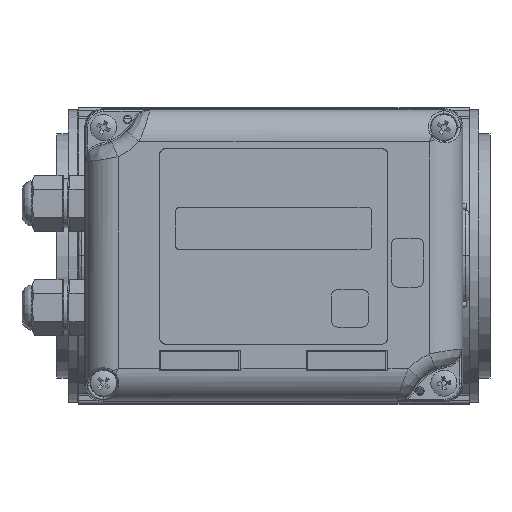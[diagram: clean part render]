
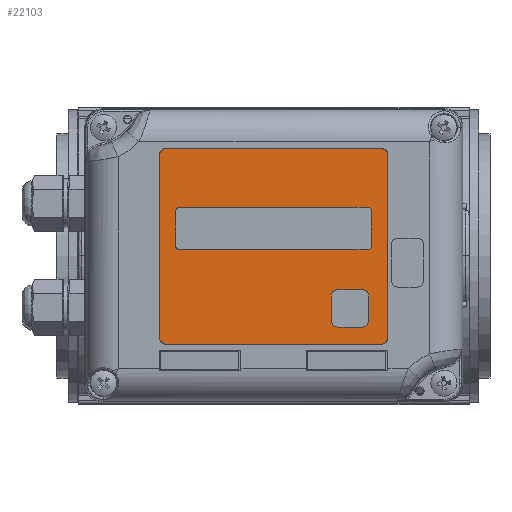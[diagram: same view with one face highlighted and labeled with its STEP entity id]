
A CAD part, top view. The second image highlights one B-rep face of the part: STEP entity #22103.
In plain terms, the highlighted planar face has unit normal (0, 0, 1).
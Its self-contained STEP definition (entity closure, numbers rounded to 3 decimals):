
#22103=ADVANCED_FACE('',(#83477,#83479,#83481),#83483,.T.);
#83477=FACE_BOUND('',#83478,.T.);
#83478=EDGE_LOOP('',(#96809,#96810,#96811,#96812,#96813,#96814,#96815,#96816));
#83479=FACE_BOUND('',#83480,.T.);
#83480=EDGE_LOOP('',(#96817,#96818,#96819,#96820,#96821,#96822,#96823,#96824));
#83481=FACE_BOUND('',#83482,.T.);
#83482=EDGE_LOOP('',(#96825,#96826,#96827,#96828,#96829,#96830,#96831,#96832));
#83483=PLANE('',#83484);
#83484=AXIS2_PLACEMENT_3D('',#83485,#83486,#83487);
#83485=CARTESIAN_POINT('',(0.059,2.709,127.3));
#83486=DIRECTION('',(0.,0.,1.));
#83487=DIRECTION('',(-1.,0.,0.));
#96809=ORIENTED_EDGE('',*,*,#103524,.F.);
#96810=ORIENTED_EDGE('',*,*,#103525,.T.);
#96811=ORIENTED_EDGE('',*,*,#103526,.F.);
#96812=ORIENTED_EDGE('',*,*,#103527,.T.);
#96813=ORIENTED_EDGE('',*,*,#103528,.F.);
#96814=ORIENTED_EDGE('',*,*,#103529,.T.);
#96815=ORIENTED_EDGE('',*,*,#103530,.F.);
#96816=ORIENTED_EDGE('',*,*,#103531,.T.);
#96817=ORIENTED_EDGE('',*,*,#103532,.F.);
#96818=ORIENTED_EDGE('',*,*,#103533,.T.);
#96819=ORIENTED_EDGE('',*,*,#103534,.F.);
#96820=ORIENTED_EDGE('',*,*,#103535,.T.);
#96821=ORIENTED_EDGE('',*,*,#103536,.F.);
#96822=ORIENTED_EDGE('',*,*,#103537,.T.);
#96823=ORIENTED_EDGE('',*,*,#103538,.F.);
#96824=ORIENTED_EDGE('',*,*,#103539,.T.);
#96825=ORIENTED_EDGE('',*,*,#103540,.F.);
#96826=ORIENTED_EDGE('',*,*,#103541,.T.);
#96827=ORIENTED_EDGE('',*,*,#103542,.F.);
#96828=ORIENTED_EDGE('',*,*,#103543,.T.);
#96829=ORIENTED_EDGE('',*,*,#103544,.F.);
#96830=ORIENTED_EDGE('',*,*,#103545,.T.);
#96831=ORIENTED_EDGE('',*,*,#103546,.F.);
#96832=ORIENTED_EDGE('',*,*,#103547,.T.);
#103524=EDGE_CURVE('',#113002,#113003,#113004,.F.);
#103525=EDGE_CURVE('',#113002,#113005,#113006,.T.);
#103526=EDGE_CURVE('',#113007,#113005,#113008,.F.);
#103527=EDGE_CURVE('',#113007,#113009,#113010,.T.);
#103528=EDGE_CURVE('',#113011,#113009,#113012,.F.);
#103529=EDGE_CURVE('',#113011,#113013,#113014,.T.);
#103530=EDGE_CURVE('',#113015,#113013,#113016,.F.);
#103531=EDGE_CURVE('',#113015,#113003,#113017,.T.);
#103532=EDGE_CURVE('',#113018,#113019,#113020,.F.);
#103533=EDGE_CURVE('',#113018,#113021,#113022,.F.);
#103534=EDGE_CURVE('',#113023,#113021,#113024,.F.);
#103535=EDGE_CURVE('',#113023,#113025,#113026,.F.);
#103536=EDGE_CURVE('',#113027,#113025,#113028,.F.);
#103537=EDGE_CURVE('',#113027,#113029,#113030,.F.);
#103538=EDGE_CURVE('',#113031,#113029,#113032,.F.);
#103539=EDGE_CURVE('',#113031,#113019,#113033,.F.);
#103540=EDGE_CURVE('',#113034,#113035,#113036,.F.);
#103541=EDGE_CURVE('',#113034,#113037,#113038,.F.);
#103542=EDGE_CURVE('',#113039,#113037,#113040,.F.);
#103543=EDGE_CURVE('',#113039,#113041,#113042,.F.);
#103544=EDGE_CURVE('',#113043,#113041,#113044,.F.);
#103545=EDGE_CURVE('',#113043,#113045,#113046,.F.);
#103546=EDGE_CURVE('',#113047,#113045,#113048,.F.);
#103547=EDGE_CURVE('',#113047,#113035,#113049,.F.);
#113002=VERTEX_POINT('',#197263);
#113003=VERTEX_POINT('',#197264);
#113004=CIRCLE('',#197265,2.);
#113005=VERTEX_POINT('',#197269);
#113006=LINE('',#197270,#197271);
#113007=VERTEX_POINT('',#197273);
#113008=CIRCLE('',#197274,2.);
#113009=VERTEX_POINT('',#197278);
#113010=LINE('',#197279,#197280);
#113011=VERTEX_POINT('',#197282);
#113012=CIRCLE('',#197283,2.);
#113013=VERTEX_POINT('',#197287);
#113014=LINE('',#197288,#197289);
#113015=VERTEX_POINT('',#197291);
#113016=CIRCLE('',#197292,2.);
#113017=LINE('',#197296,#197297);
#113018=VERTEX_POINT('',#197299);
#113019=VERTEX_POINT('',#197300);
#113020=CIRCLE('',#197301,2.);
#113021=VERTEX_POINT('',#197305);
#113022=LINE('',#197306,#197307);
#113023=VERTEX_POINT('',#197309);
#113024=CIRCLE('',#197310,2.);
#113025=VERTEX_POINT('',#197314);
#113026=LINE('',#197315,#197316);
#113027=VERTEX_POINT('',#197318);
#113028=CIRCLE('',#197319,2.);
#113029=VERTEX_POINT('',#197323);
#113030=LINE('',#197324,#197325);
#113031=VERTEX_POINT('',#197327);
#113032=CIRCLE('',#197328,2.);
#113033=LINE('',#197332,#197333);
#113034=VERTEX_POINT('',#197335);
#113035=VERTEX_POINT('',#197336);
#113036=CIRCLE('',#197337,1.);
#113037=VERTEX_POINT('',#197341);
#113038=LINE('',#197342,#197343);
#113039=VERTEX_POINT('',#197345);
#113040=CIRCLE('',#197346,1.);
#113041=VERTEX_POINT('',#197350);
#113042=LINE('',#197351,#197352);
#113043=VERTEX_POINT('',#197354);
#113044=CIRCLE('',#197355,1.);
#113045=VERTEX_POINT('',#197359);
#113046=LINE('',#197360,#197361);
#113047=VERTEX_POINT('',#197363);
#113048=CIRCLE('',#197364,1.);
#113049=LINE('',#197368,#197369);
#197263=CARTESIAN_POINT('',(-32.941,-27.291,127.3));
#197264=CARTESIAN_POINT('',(-34.941,-25.291,127.3));
#197265=AXIS2_PLACEMENT_3D('',#197266,#197267,#197268);
#197266=CARTESIAN_POINT('',(-32.941,-25.291,127.3));
#197267=DIRECTION('',(0.,0.,1.));
#197268=DIRECTION('',(-1.,0.,0.));
#197269=CARTESIAN_POINT('',(33.059,-27.291,127.3));
#197270=CARTESIAN_POINT('',(-32.941,-27.291,127.3));
#197271=VECTOR('',#197272,1.);
#197272=DIRECTION('',(1.,0.,0.));
#197273=CARTESIAN_POINT('',(35.059,-25.291,127.3));
#197274=AXIS2_PLACEMENT_3D('',#197275,#197276,#197277);
#197275=CARTESIAN_POINT('',(33.059,-25.291,127.3));
#197276=DIRECTION('',(0.,0.,1.));
#197277=DIRECTION('',(0.,-1.,0.));
#197278=CARTESIAN_POINT('',(35.059,30.709,127.3));
#197279=CARTESIAN_POINT('',(35.059,-25.291,127.3));
#197280=VECTOR('',#197281,1.);
#197281=DIRECTION('',(0.,1.,0.));
#197282=CARTESIAN_POINT('',(33.059,32.709,127.3));
#197283=AXIS2_PLACEMENT_3D('',#197284,#197285,#197286);
#197284=CARTESIAN_POINT('',(33.059,30.709,127.3));
#197285=DIRECTION('',(0.,0.,1.));
#197286=DIRECTION('',(1.,0.,0.));
#197287=CARTESIAN_POINT('',(-32.941,32.709,127.3));
#197288=CARTESIAN_POINT('',(33.059,32.709,127.3));
#197289=VECTOR('',#197290,1.);
#197290=DIRECTION('',(-1.,0.,0.));
#197291=CARTESIAN_POINT('',(-34.941,30.709,127.3));
#197292=AXIS2_PLACEMENT_3D('',#197293,#197294,#197295);
#197293=CARTESIAN_POINT('',(-32.941,30.709,127.3));
#197294=DIRECTION('',(0.,0.,1.));
#197295=DIRECTION('',(0.,1.,0.));
#197296=CARTESIAN_POINT('',(-34.941,30.709,127.3));
#197297=VECTOR('',#197298,1.);
#197298=DIRECTION('',(0.,-1.,0.));
#197299=CARTESIAN_POINT('',(19.809,-10.541,127.3));
#197300=CARTESIAN_POINT('',(17.809,-12.541,127.3));
#197301=AXIS2_PLACEMENT_3D('',#197302,#197303,#197304);
#197302=CARTESIAN_POINT('',(19.809,-12.541,127.3));
#197303=DIRECTION('',(-0.,0.,-1.));
#197304=DIRECTION('',(-1.,0.,0.));
#197305=CARTESIAN_POINT('',(27.309,-10.541,127.3));
#197306=CARTESIAN_POINT('',(27.309,-10.541,127.3));
#197307=VECTOR('',#197308,1.);
#197308=DIRECTION('',(-1.,0.,0.));
#197309=CARTESIAN_POINT('',(29.309,-12.541,127.3));
#197310=AXIS2_PLACEMENT_3D('',#197311,#197312,#197313);
#197311=CARTESIAN_POINT('',(27.309,-12.541,127.3));
#197312=DIRECTION('',(0.,-0.,-1.));
#197313=DIRECTION('',(0.,1.,0.));
#197314=CARTESIAN_POINT('',(29.309,-20.041,127.3));
#197315=CARTESIAN_POINT('',(29.309,-20.041,127.3));
#197316=VECTOR('',#197317,1.);
#197317=DIRECTION('',(0.,1.,0.));
#197318=CARTESIAN_POINT('',(27.309,-22.041,127.3));
#197319=AXIS2_PLACEMENT_3D('',#197320,#197321,#197322);
#197320=CARTESIAN_POINT('',(27.309,-20.041,127.3));
#197321=DIRECTION('',(0.,-0.,-1.));
#197322=DIRECTION('',(1.,0.,0.));
#197323=CARTESIAN_POINT('',(19.809,-22.041,127.3));
#197324=CARTESIAN_POINT('',(19.809,-22.041,127.3));
#197325=VECTOR('',#197326,1.);
#197326=DIRECTION('',(1.,0.,0.));
#197327=CARTESIAN_POINT('',(17.809,-20.041,127.3));
#197328=AXIS2_PLACEMENT_3D('',#197329,#197330,#197331);
#197329=CARTESIAN_POINT('',(19.809,-20.041,127.3));
#197330=DIRECTION('',(-0.,0.,-1.));
#197331=DIRECTION('',(0.,-1.,0.));
#197332=CARTESIAN_POINT('',(17.809,-12.541,127.3));
#197333=VECTOR('',#197334,1.);
#197334=DIRECTION('',(0.,-1.,0.));
#197335=CARTESIAN_POINT('',(-28.941,14.709,127.3));
#197336=CARTESIAN_POINT('',(-29.941,13.709,127.3));
#197337=AXIS2_PLACEMENT_3D('',#197338,#197339,#197340);
#197338=CARTESIAN_POINT('',(-28.941,13.709,127.3));
#197339=DIRECTION('',(0.,-0.,-1.));
#197340=DIRECTION('',(-1.,0.,0.));
#197341=CARTESIAN_POINT('',(29.059,14.709,127.3));
#197342=CARTESIAN_POINT('',(29.059,14.709,127.3));
#197343=VECTOR('',#197344,1.);
#197344=DIRECTION('',(-1.,0.,0.));
#197345=CARTESIAN_POINT('',(30.059,13.709,127.3));
#197346=AXIS2_PLACEMENT_3D('',#197347,#197348,#197349);
#197347=CARTESIAN_POINT('',(29.059,13.709,127.3));
#197348=DIRECTION('',(0.,-0.,-1.));
#197349=DIRECTION('',(0.,1.,0.));
#197350=CARTESIAN_POINT('',(30.059,2.709,127.3));
#197351=CARTESIAN_POINT('',(30.059,2.709,127.3));
#197352=VECTOR('',#197353,1.);
#197353=DIRECTION('',(0.,1.,0.));
#197354=CARTESIAN_POINT('',(29.059,1.709,127.3));
#197355=AXIS2_PLACEMENT_3D('',#197356,#197357,#197358);
#197356=CARTESIAN_POINT('',(29.059,2.709,127.3));
#197357=DIRECTION('',(0.,-0.,-1.));
#197358=DIRECTION('',(1.,0.,0.));
#197359=CARTESIAN_POINT('',(-28.941,1.709,127.3));
#197360=CARTESIAN_POINT('',(-28.941,1.709,127.3));
#197361=VECTOR('',#197362,1.);
#197362=DIRECTION('',(1.,0.,0.));
#197363=CARTESIAN_POINT('',(-29.941,2.709,127.3));
#197364=AXIS2_PLACEMENT_3D('',#197365,#197366,#197367);
#197365=CARTESIAN_POINT('',(-28.941,2.709,127.3));
#197366=DIRECTION('',(-0.,0.,-1.));
#197367=DIRECTION('',(0.,-1.,0.));
#197368=CARTESIAN_POINT('',(-29.941,13.709,127.3));
#197369=VECTOR('',#197370,1.);
#197370=DIRECTION('',(0.,-1.,0.));
